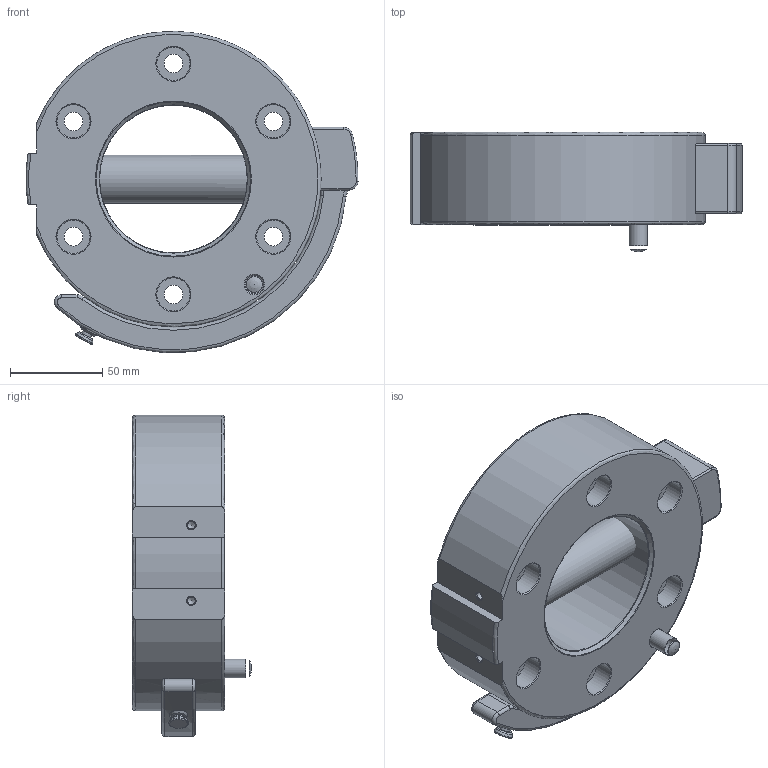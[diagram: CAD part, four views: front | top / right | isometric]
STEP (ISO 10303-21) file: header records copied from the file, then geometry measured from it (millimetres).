
FILE_DESCRIPTION(/* description */ (''),/* implementation_level */ '2;1');
FILE_NAME(/* name */ 'T:\CAD\Standard\Daten\3D-Datenbank\Webseite 2020\SHW\SHW160\G-SHW160-2OE-UR LT.stp',/* time_stamp */ '2020-10-27T17:46:34+01:00',/* author */ ('hcanti'),/* organization */ (''),/* preprocessor_version */ 'ST-DEVELOPER v17',/* originating_system */ 'Autodesk Inventor 2018',/* authorisation */ '');
FILE_SCHEMA (('CONFIG_CONTROL_DESIGN'));
Length unit declared in the file: millimetre
Products named in the file (1): G-SHW160-2OE-UR LT
Bounding box: 179.85 x 64.5 x 174.02 mm (x, y, z)
Volume: 860660.7 mm3; surface area: 117544.7 mm2
Topology: 7 solids, 7 shells, 175 faces, 468 edges, 314 vertices
Faces by surface type: cylinder 65, cone 42, plane 33, torus 33, sphere 2
Full cylindrical faces by diameter (mm): 4.134 x2, 5 x8, 5.58 x1, 6.2 x1, 6.75 x4, 6.8 x1, 7 x1, 7.8 x1, 10 x4, 10.1 x1, 10.106 x6, 10.6 x1, 18 x6, 26 x1, 80 x1
Entity records: 6032 total; most frequent: CARTESIAN_POINT 1196, DIRECTION 1073, ORIENTED_EDGE 902, AXIS2_PLACEMENT_3D 467, EDGE_CURVE 451, VERTEX_POINT 314, CIRCLE 291, EDGE_LOOP 221
